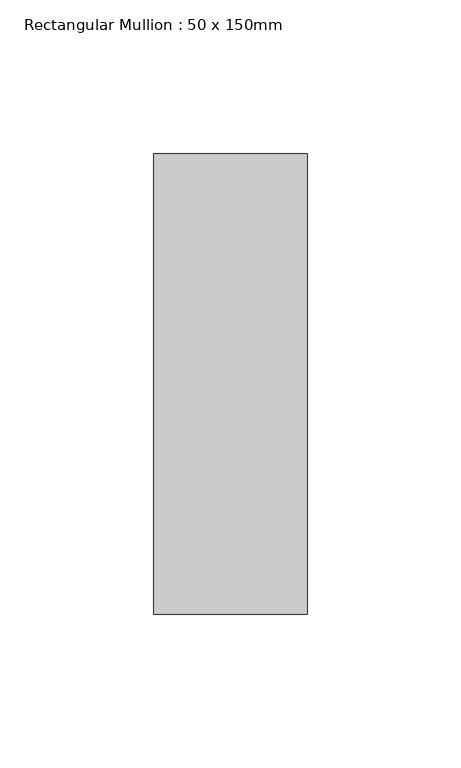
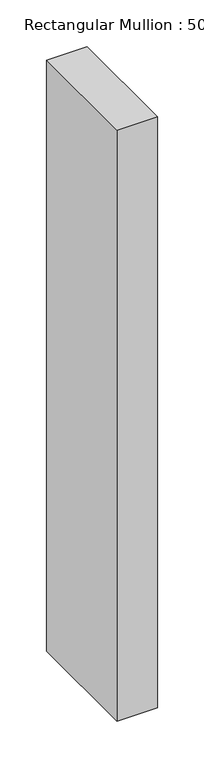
"""IFC4 building model written with IfcOpenShell, lengths in millimetres: member geometry, Rectangular Mullion : 50 x 150mm."""

from ifc_helpers import new_model, si_unit, frame, origin, place, context, project, spatial, polyline, outline, extrude, source, transform, mapped, element, save


def rectangular_mullion_50_x_150mm_52ae1937(model_context):
    return source(origin(), model_context, "Body", "SweptSolid", [
        extrude(outline(polyline([(0.0, 75.0), (0.0, -75.0), (-50.0, -75.0), (-50.0, 75.0), (0.0, 75.0)])), frame((0.0, 0.0, -770.4891274), z_axis=(0.0, 0.0, 1.0), x_axis=(1.0, 0.0, 0.0)), (0.0, 0.0, 1.0), 770.4891274),
    ])


if __name__ == "__main__":
    model = new_model("IFC4")
    model_context = context("Model", 3, world=origin())
    ifc_project = project(units=[si_unit("LENGTHUNIT", "METRE", prefix="MILLI")], contexts=[model_context])
    site = spatial("IfcSite", under=ifc_project)
    building = spatial("IfcBuilding", under=site)
    placement = place(None, origin())
    rectangular_mullion_50_x_150mm_shape = rectangular_mullion_50_x_150mm_52ae1937(model_context)
    element("IfcMember", 1, ObjectType="Rectangular Mullion : 50 x 150mm", at=placement, inside=building, context=model_context, shape_type="MappedRepresentation", body=[
        mapped(rectangular_mullion_50_x_150mm_shape, transform((0.0, 0.0, 0.0), x_axis=(1.0, 0.0, 0.0), y_axis=(0.0, 1.0, 0.0), z_axis=(0.0, 0.0, 1.0))),
    ])
    save(model, "model.ifc")
